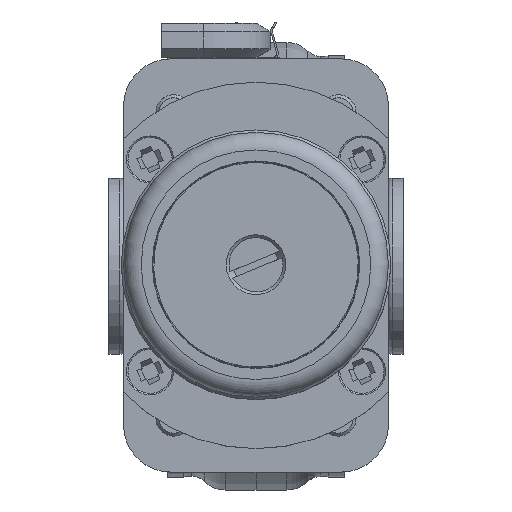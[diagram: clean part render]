
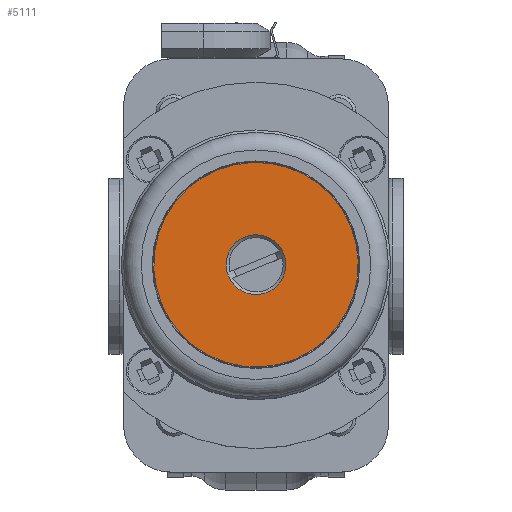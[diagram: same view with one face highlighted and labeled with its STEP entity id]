
A CAD part, top view. The second image highlights one B-rep face of the part: STEP entity #5111.
In plain terms, the highlighted planar face has unit normal (0, 0, 1) as drawn and (1, 0, 0) by its records, which use the part's own axes.
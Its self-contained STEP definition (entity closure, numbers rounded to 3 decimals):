
#5111=ADVANCED_FACE('',(#7443,#7444),#5523,.T.);
#5523=PLANE('',#14260);
#7443=FACE_BOUND('',#8044,.T.);
#7444=FACE_BOUND('',#8045,.T.);
#8044=EDGE_LOOP('',(#9871));
#8045=EDGE_LOOP('',(#9872));
#9871=ORIENTED_EDGE('',*,*,#12703,.T.);
#9872=ORIENTED_EDGE('',*,*,#12704,.F.);
#11565=VERTEX_POINT('',#25746);
#11566=VERTEX_POINT('',#25748);
#12703=EDGE_CURVE('',#11565,#11565,#13548,.T.);
#12704=EDGE_CURVE('',#11566,#11566,#13549,.T.);
#13548=CIRCLE('',#14258,5.075);
#13549=CIRCLE('',#14259,17.375);
#14258=AXIS2_PLACEMENT_3D('',#25745,#16195,#16196);
#14259=AXIS2_PLACEMENT_3D('',#25747,#16197,#16198);
#14260=AXIS2_PLACEMENT_3D('',#25749,#16199,#16200);
#16195=DIRECTION('',(-1.,0.,0.));
#16196=DIRECTION('',(0.,0.,1.));
#16197=DIRECTION('',(-1.,0.,0.));
#16198=DIRECTION('',(0.,0.,1.));
#16199=DIRECTION('',(1.,0.,0.));
#16200=DIRECTION('',(0.,0.,-1.));
#25745=CARTESIAN_POINT('',(12.1,0.,0.));
#25746=CARTESIAN_POINT('',(12.1,0.,5.075));
#25747=CARTESIAN_POINT('',(12.1,0.,0.));
#25748=CARTESIAN_POINT('',(12.1,0.,17.375));
#25749=CARTESIAN_POINT('',(12.1,17.375,0.));
